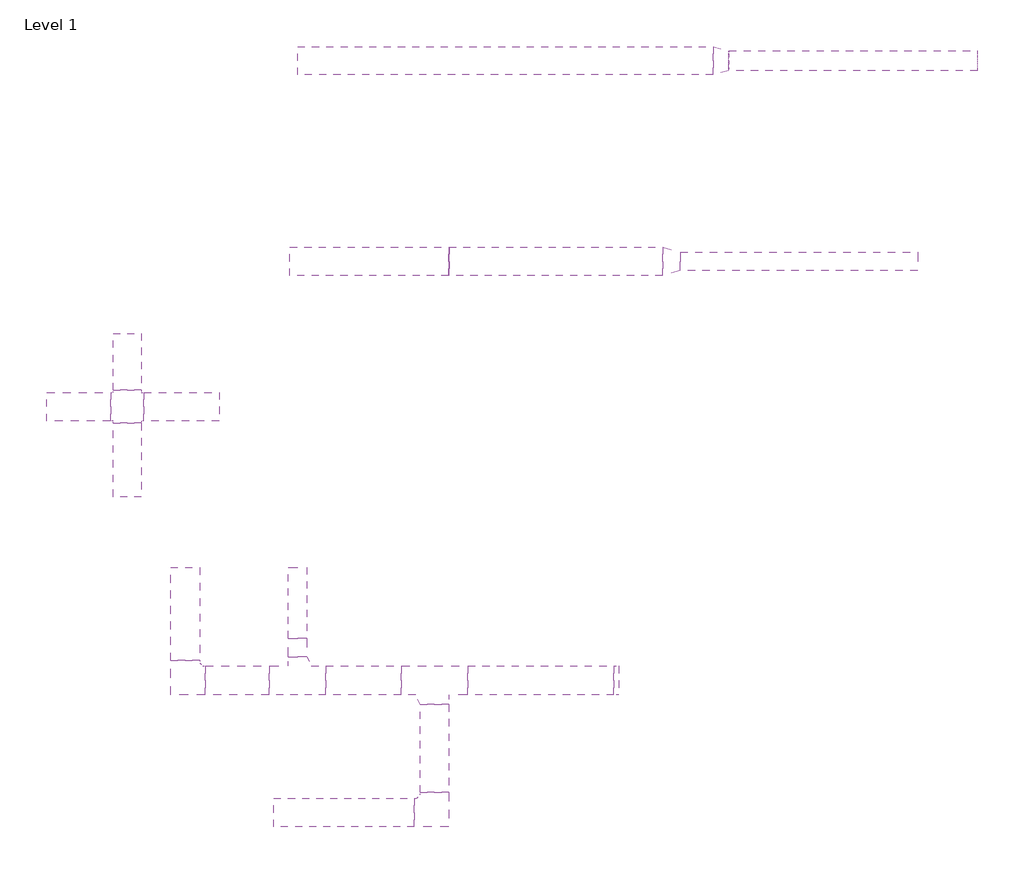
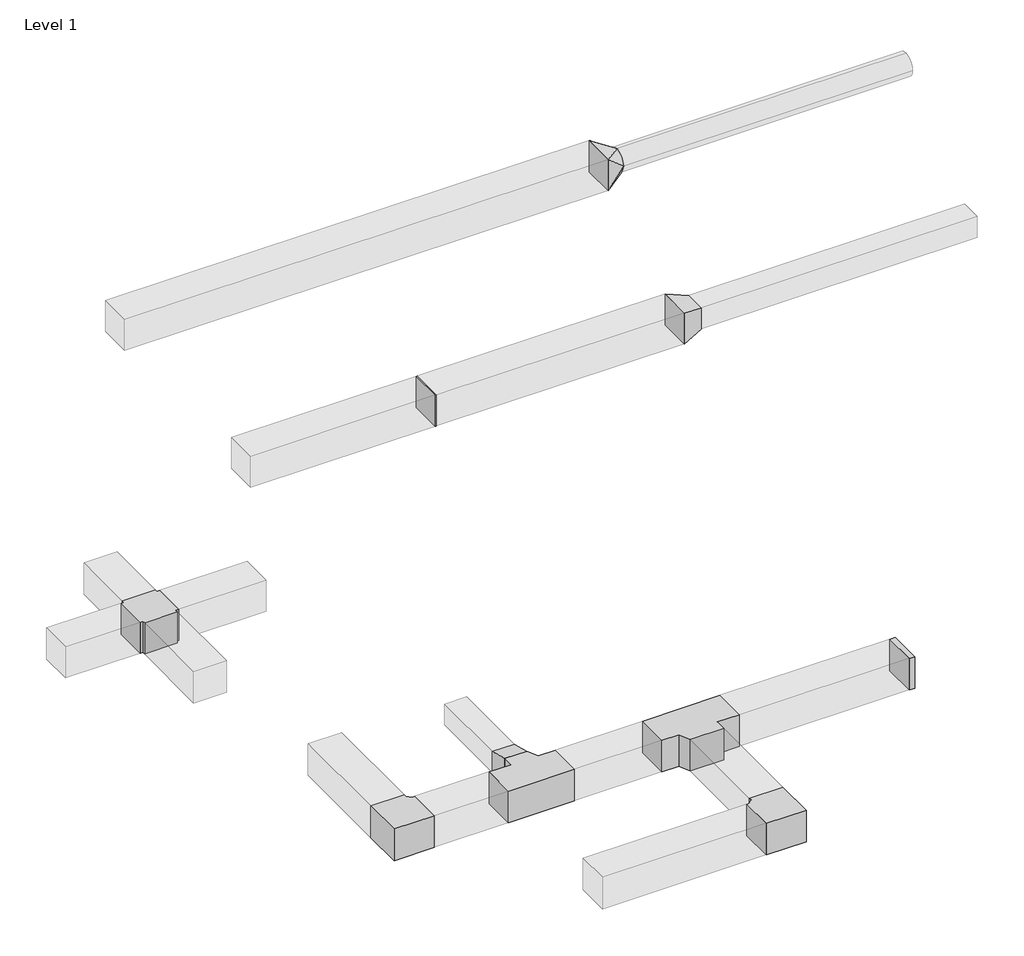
# One storey: 16 duct segments, 10 duct fittings.
"""IFC4 building model written with IfcOpenShell, lengths in millimetres."""

from ifc_helpers import new_model, si_unit, point, frame, frame_2d, origin, place, context, project, spatial, polyline, circle_curve, trimmed, segment, composite_curve, outline, extrude, transform, mapped, element, save
from components import m_rectangular_cross_standard_f8b877fd, m_rectangular_endcap_dtl_standard_3eeb19c4, m_rectangular_tee_beveled_standard_c2d9937a, m_rectangular_tee_beveled_standard_a3e33682, m_rectangular_transition_angle_30_degree_ebf3d393, m_rectangular_transition_angle_30_degree_a9da263b, m_rectangular_union_standard_95ef7098, m_rectangular_to_round_transition_angle_30_degree_390e36da, standard_a370b89d

model = new_model("IFC4")

# Units and contexts
model_context = context("Model", 3, world=origin())
ifc_project = project(units=[si_unit("LENGTHUNIT", "METRE", prefix="MILLI")], contexts=[model_context])

# Site, building, storey
site = spatial("IfcSite", under=ifc_project)
building = spatial("IfcBuilding", under=site)
storey = spatial("IfcBuildingStorey", under=building, Name="Level 1", Elevation=0.0)

# Duct fittings
placement = place(None, origin())
m_rectangular_cross_standard_shape = m_rectangular_cross_standard_f8b877fd(model_context)
element("IfcDuctFitting", 1, ObjectType="M_Rectangular Cross : Standard", at=placement, inside=storey, context=model_context, shape_type="MappedRepresentation", body=[
    mapped(m_rectangular_cross_standard_shape, transform((4038.5807647, -3236.2199587, 3200.0), x_axis=(1.0, 0.0, 0.0), y_axis=(0.0, 1.0, 0.0), z_axis=(0.0, 0.0, 1.0))),
])
m_rectangular_endcap_dtl_standard_shape = m_rectangular_endcap_dtl_standard_3eeb19c4(model_context)
element("IfcDuctFitting", 2, ObjectType="M_Rectangular Endcap - DTL : Standard", at=placement, inside=storey, context=model_context, shape_type="MappedRepresentation", body=[
    mapped(m_rectangular_endcap_dtl_standard_shape, transform((9191.6095122, -6136.6746374, 2743.2), x_axis=(1.0, 0.0, 0.0), y_axis=(0.0, 1.0, 0.0), z_axis=(0.0, 0.0, 1.0))),
])
m_rectangular_tee_beveled_standard_shape = m_rectangular_tee_beveled_standard_c2d9937a(model_context)
element("IfcDuctFitting", 3, ObjectType="M_Rectangular Tee - Beveled : Standard", at=placement, inside=storey, context=model_context, shape_type="MappedRepresentation", body=[
    mapped(m_rectangular_tee_beveled_standard_shape, transform((7291.6095122, -6136.6746374, 2743.2), x_axis=(1.0, 0.0, 0.0), y_axis=(0.0, 1.0, 0.0), z_axis=(0.0, 0.0, 1.0))),
])
m_rectangular_tee_beveled_standard_2_shape = m_rectangular_tee_beveled_standard_a3e33682(model_context)
element("IfcDuctFitting", 4, ObjectType="M_Rectangular Tee - Beveled : Standard", at=placement, inside=storey, context=model_context, shape_type="MappedRepresentation", body=[
    mapped(m_rectangular_tee_beveled_standard_2_shape, transform((5841.677874, -6136.6746374, 2743.2), x_axis=(-1.0, 0.0, 0.0), y_axis=(0.0, -1.0, 0.0), z_axis=(0.0, 0.0, 1.0))),
])
m_rectangular_transition_angle_30_degree_shape = m_rectangular_transition_angle_30_degree_ebf3d393(model_context)
element("IfcDuctFitting", 5, ObjectType="M_Rectangular Transition - Angle : 30 Degree", at=placement, inside=storey, context=model_context, shape_type="MappedRepresentation", body=[
    mapped(m_rectangular_transition_angle_30_degree_shape, transform((5841.677874, -5884.2746374, 2743.2), x_axis=(0.0, 1.0, 0.0), y_axis=(-1.0, 0.0, 0.0), z_axis=(0.0, 0.0, 1.0))),
])
m_rectangular_transition_angle_30_degree_2_shape = m_rectangular_transition_angle_30_degree_a9da263b(model_context)
element("IfcDuctFitting", 6, ObjectType="M_Rectangular Transition - Angle : 30 Degree", at=placement, inside=storey, context=model_context, shape_type="MappedRepresentation", body=[
    mapped(m_rectangular_transition_angle_30_degree_2_shape, transform((9707.0095122, -1695.9217296, 3200.0), x_axis=(1.0, 0.0, 0.0), y_axis=(0.0, 1.0, 0.0), z_axis=(0.0, 0.0, 1.0))),
])
m_rectangular_union_standard_shape = m_rectangular_union_standard_95ef7098(model_context)
element("IfcDuctFitting", 7, ObjectType="M_Rectangular Union : Standard", at=placement, inside=storey, context=model_context, shape_type="MappedRepresentation", body=[
    mapped(m_rectangular_union_standard_shape, transform((7444.0095122, -1695.9217296, 3200.0), x_axis=(1.0, 0.0, 0.0), y_axis=(0.0, 1.0, 0.0), z_axis=(0.0, 0.0, 1.0))),
])
m_rectangular_to_round_transition_angle_30_degree_shape = m_rectangular_to_round_transition_angle_30_degree_390e36da(model_context)
element("IfcDuctFitting", 8, ObjectType="M_Rectangular to Round Transition - Angle : 30 Degree", at=placement, inside=storey, context=model_context, shape_type="MappedRepresentation", body=[
    mapped(m_rectangular_to_round_transition_angle_30_degree_shape, transform((10241.677874, 430.5431625, 3200.0), x_axis=(1.0, 0.0, 0.0), y_axis=(0.0, 1.0, 0.0), z_axis=(0.0, 0.0, 1.0))),
])
standard_shape = standard_a370b89d(model_context)
element("IfcDuctFitting", 9, ObjectType="M_Rectangular Elbow - Beveled Throat - Sharp Heel : Standard", at=placement, inside=storey, context=model_context, shape_type="MappedRepresentation", body=[
    mapped(standard_shape, transform((7291.6095122, -7536.6746374, 2743.2), x_axis=(1.0, 0.0, 0.0), y_axis=(0.0, 1.0, 0.0), z_axis=(0.0, 0.0, 1.0))),
])
element("IfcDuctFitting", 10, ObjectType="M_Rectangular Elbow - Beveled Throat - Sharp Heel : Standard", at=placement, inside=storey, context=model_context, shape_type="MappedRepresentation", body=[
    mapped(standard_shape, transform((4651.6095122, -6136.6746374, 2743.2), x_axis=(0.0, -1.0, 0.0), y_axis=(1.0, 0.0, 0.0), z_axis=(0.0, 0.0, 1.0))),
])

# Duct segments
element("IfcDuctSegment", 11, ObjectType="Default", at=placement, inside=storey, context=model_context, shape_type="SweptSolid", body=[
    extrude(outline(polyline([(6939.2095122, -5984.2746374), (6939.2095122, -6289.0746374), (6141.677874, -6289.0746374), (6141.677874, -5984.2746374), (6939.2095122, -5984.2746374)])), frame((0.0, 0.0, 2590.8), z_axis=(0.0, 0.0, 1.0), x_axis=(1.0, 0.0, 0.0)), (0.0, 0.0, 1.0), 304.8),
])
element("IfcDuctSegment", 12, ObjectType="Default", at=placement, inside=storey, context=model_context, shape_type="SweptSolid", body=[
    extrude(outline(polyline([(5591.6095122, -7689.0746374), (5591.6095122, -7384.2746374), (7078.8541731, -7384.2746374), (7078.8541731, -7689.0746374), (5591.6095122, -7689.0746374)])), frame((0.0, 0.0, 2590.8), z_axis=(0.0, 0.0, 1.0), x_axis=(1.0, 0.0, 0.0)), (0.0, 0.0, 1.0), 304.8),
])
element("IfcDuctSegment", 13, ObjectType="Default", at=placement, inside=storey, context=model_context, shape_type="SweptSolid", body=[
    extrude(outline(polyline([(7444.0095122, -7323.9192984), (7139.2095122, -7323.9192984), (7139.2095122, -6389.0746374), (7444.0095122, -6389.0746374), (7444.0095122, -7323.9192984)])), frame((0.0, 0.0, 2590.8), z_axis=(0.0, 0.0, 1.0), x_axis=(1.0, 0.0, 0.0)), (0.0, 0.0, 1.0), 304.8),
])
element("IfcDuctSegment", 14, ObjectType="Default", at=placement, inside=storey, context=model_context, shape_type="SweptSolid", body=[
    extrude(outline(polyline([(4499.2095122, -4936.6746374), (4804.0095122, -4936.6746374), (4804.0095122, -5923.9192984), (4499.2095122, -5923.9192984), (4499.2095122, -4936.6746374)])), frame((0.0, 0.0, 2590.8), z_axis=(0.0, 0.0, 1.0), x_axis=(1.0, 0.0, 0.0)), (0.0, 0.0, 1.0), 304.8),
])
element("IfcDuctSegment", 15, ObjectType="Default", at=placement, inside=storey, context=model_context, shape_type="SweptSolid", body=[
    extrude(outline(polyline([(4864.3648513, -6289.0746374), (4864.3648513, -5984.2746374), (5541.677874, -5984.2746374), (5541.677874, -6289.0746374), (4864.3648513, -6289.0746374)])), frame((0.0, 0.0, 2590.8), z_axis=(0.0, 0.0, 1.0), x_axis=(1.0, 0.0, 0.0)), (0.0, 0.0, 1.0), 304.8),
])
element("IfcDuctSegment", 16, ObjectType="Default", at=placement, inside=storey, context=model_context, shape_type="SweptSolid", body=[
    extrude(outline(polyline([(9191.6095122, -5984.2746374), (9191.6095122, -6289.0746374), (7644.0095122, -6289.0746374), (7644.0095122, -5984.2746374), (9191.6095122, -5984.2746374)])), frame((0.0, 0.0, 2590.8), z_axis=(0.0, 0.0, 1.0), x_axis=(1.0, 0.0, 0.0)), (0.0, 0.0, 1.0), 304.8),
])
element("IfcDuctSegment", 17, ObjectType="Default", at=placement, inside=storey, context=model_context, shape_type="SweptSolid", body=[
    extrude(outline(polyline([(5741.677874, -4936.6746374), (5941.677874, -4936.6746374), (5941.677874, -5688.7151751), (5741.677874, -5688.7151751), (5741.677874, -4936.6746374)])), frame((0.0, 0.0, 2643.2), z_axis=(0.0, 0.0, 1.0), x_axis=(1.0, 0.0, 0.0)), (0.0, 0.0, 1.0), 200.0),
])
element("IfcDuctSegment", 18, ObjectType="Default", at=placement, inside=storey, context=model_context, shape_type="SweptSolid", body=[
    extrude(outline(polyline([(4213.5807647, -3386.2199587), (4213.5807647, -3086.2199587), (5013.5807647, -3086.2199587), (5013.5807647, -3386.2199587), (4213.5807647, -3386.2199587)])), frame((0.0, 0.0, 3050.0), z_axis=(0.0, 0.0, 1.0), x_axis=(1.0, 0.0, 0.0)), (0.0, 0.0, 1.0), 300.0),
])
element("IfcDuctSegment", 19, ObjectType="Default", at=placement, inside=storey, context=model_context, shape_type="SweptSolid", body=[
    extrude(outline(polyline([(3888.5807647, -3411.2199587), (4188.5807647, -3411.2199587), (4188.5807647, -4191.2199587), (3888.5807647, -4191.2199587), (3888.5807647, -3411.2199587)])), frame((0.0, 0.0, 3050.0), z_axis=(0.0, 0.0, 1.0), x_axis=(1.0, 0.0, 0.0)), (0.0, 0.0, 1.0), 300.0),
])
element("IfcDuctSegment", 20, ObjectType="Default", at=placement, inside=storey, context=model_context, shape_type="SweptSolid", body=[
    extrude(outline(polyline([(3863.5807647, -3086.2199587), (3863.5807647, -3386.2199587), (3183.5807647, -3386.2199587), (3183.5807647, -3086.2199587), (3863.5807647, -3086.2199587)])), frame((0.0, 0.0, 3050.0), z_axis=(0.0, 0.0, 1.0), x_axis=(1.0, 0.0, 0.0)), (0.0, 0.0, 1.0), 300.0),
])
element("IfcDuctSegment", 21, ObjectType="Default", at=placement, inside=storey, context=model_context, shape_type="SweptSolid", body=[
    extrude(outline(polyline([(4188.5807647, -3061.2199587), (3888.5807647, -3061.2199587), (3888.5807647, -2461.2199587), (4188.5807647, -2461.2199587), (4188.5807647, -3061.2199587)])), frame((0.0, 0.0, 3050.0), z_axis=(0.0, 0.0, 1.0), x_axis=(1.0, 0.0, 0.0)), (0.0, 0.0, 1.0), 300.0),
])
element("IfcDuctSegment", 22, ObjectType="Default", at=placement, inside=storey, context=model_context, shape_type="SweptSolid", body=[
    extrude(outline(polyline([(7447.0095122, -1845.9217296), (7447.0095122, -1545.9217296), (9707.0095122, -1545.9217296), (9707.0095122, -1845.9217296), (7447.0095122, -1845.9217296)])), frame((0.0, 0.0, 3050.0), z_axis=(0.0, 0.0, 1.0), x_axis=(1.0, 0.0, 0.0)), (0.0, 0.0, 1.0), 300.0),
])
element("IfcDuctSegment", 23, ObjectType="Default", at=placement, inside=storey, context=model_context, shape_type="SweptSolid", body=[
    extrude(outline(polyline([(7441.0095122, -1545.9217296), (7441.0095122, -1845.9217296), (5761.0095122, -1845.9217296), (5761.0095122, -1545.9217296), (7441.0095122, -1545.9217296)])), frame((0.0, 0.0, 3050.0), z_axis=(0.0, 0.0, 1.0), x_axis=(1.0, 0.0, 0.0)), (0.0, 0.0, 1.0), 300.0),
])
element("IfcDuctSegment", 24, ObjectType="Default", at=placement, inside=storey, context=model_context, shape_type="SweptSolid", body=[
    extrude(outline(polyline([(5841.677874, 280.5431625), (5841.677874, 580.5431625), (10241.677874, 580.5431625), (10241.677874, 280.5431625), (5841.677874, 280.5431625)])), frame((0.0, 0.0, 3050.0), z_axis=(0.0, 0.0, 1.0), x_axis=(1.0, 0.0, 0.0)), (0.0, 0.0, 1.0), 300.0),
])
element("IfcDuctSegment", 25, ObjectType="Default", at=placement, inside=storey, context=model_context, shape_type="SweptSolid", body=[
    extrude(outline(composite_curve([segment(trimmed(circle_curve(frame_2d((430.5431625, 3200.0)), 105.0), [point((325.5431625, 3200.0))], [point((430.5431625, 3305.0))], False, "CARTESIAN"), True, "CONTINUOUS"), segment(trimmed(circle_curve(frame_2d((430.5431625, 3200.0)), 105.0), [point((430.5431625, 3305.0))], [point((535.5431625, 3200.0))], False, "CARTESIAN"), True, "CONTINUOUS"), segment(trimmed(circle_curve(frame_2d((430.5431625, 3200.0)), 105.0), [point((535.5431625, 3200.0))], [point((430.5431625, 3095.0))], False, "CARTESIAN"), True, "CONTINUOUS"), segment(trimmed(circle_curve(frame_2d((430.5431625, 3200.0)), 105.0), [point((430.5431625, 3095.0))], [point((325.5431625, 3200.0))], False, "CARTESIAN"), True, "CONTINUOUS")], self_intersect=False)), frame((10409.6201604, 0.0, 0.0), z_axis=(1.0, 0.0, 0.0), x_axis=(0.0, 1.0, 0.0)), (0.0, 0.0, 1.0), 2632.0577137),
])
element("IfcDuctSegment", 26, ObjectType="Default", at=placement, inside=storey, context=model_context, shape_type="SweptSolid", body=[
    extrude(outline(polyline([(9893.6120526, -1795.9217296), (9893.6120526, -1595.9217296), (12407.0095122, -1595.9217296), (12407.0095122, -1795.9217296), (9893.6120526, -1795.9217296)])), frame((0.0, 0.0, 3100.0), z_axis=(0.0, 0.0, 1.0), x_axis=(1.0, 0.0, 0.0)), (0.0, 0.0, 1.0), 200.0),
])

save(model, "model.ifc")
